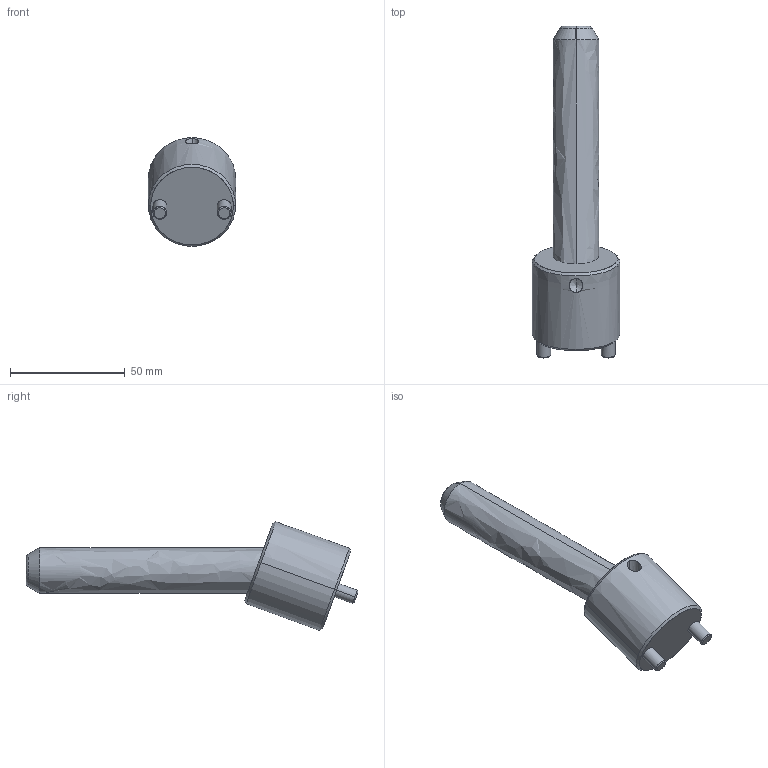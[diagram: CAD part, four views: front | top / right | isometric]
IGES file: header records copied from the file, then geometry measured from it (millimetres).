
Start section: START RECORD GO HERE.
Global section: file name: CI2020100.igs; native system: DASSAULT SYSTEMES CATIA V5 R20 - www.3ds.com; preprocessor: CATIA Version 5 Release 20 ; author: r.borello; organization: CFTORINO; date: 20190624.084146; units: millimetre
Bounding box: 38 x 144.51 x 47.34 mm (x, y, z)
Surface area: 17412.5 mm2 (no closed solid volume)
Topology: 0 solids, 0 shells, 39 faces, 162 edges, 160 vertices
Faces by surface type: revolution 32, plane 7
